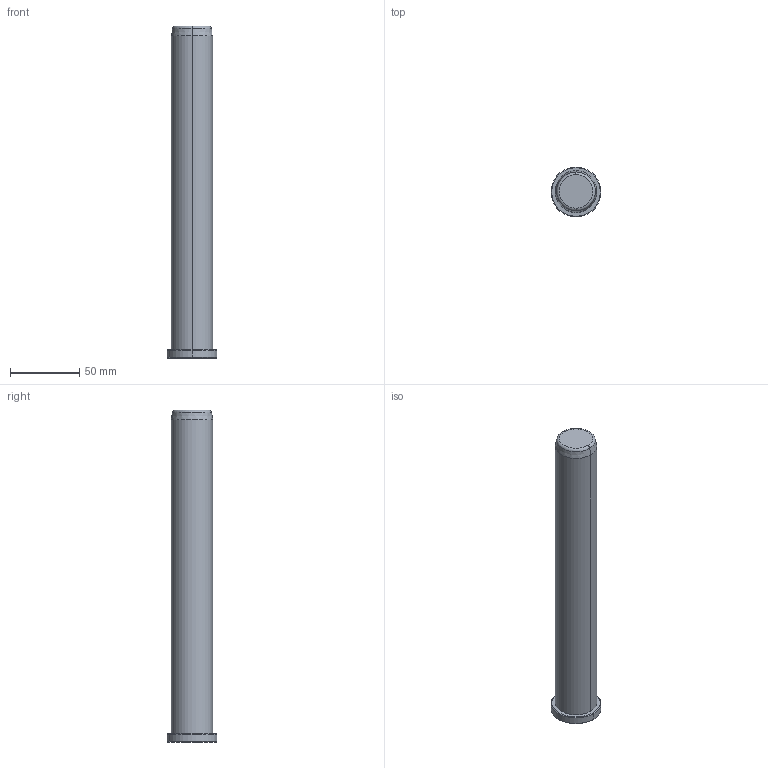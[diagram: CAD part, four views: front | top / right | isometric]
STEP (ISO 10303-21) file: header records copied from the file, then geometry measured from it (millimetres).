
FILE_DESCRIPTION((''),'2;1');
FILE_NAME('B81830240','2018-01-06T',('MANU'),(''),'PRO/ENGINEER BY PARAMETRIC TECHNOLOGY CORPORATION, 2012130','PRO/ENGINEER BY PARAMETRIC TECHNOLOGY CORPORATION, 2012130','');
FILE_SCHEMA(('CONFIG_CONTROL_DESIGN'));
Length unit declared in the file: millimetre
Products named in the file (1): B81830240
Bounding box: 36 x 36 x 240 mm (x, y, z)
Volume: 171040.4 mm3; surface area: 24522.4 mm2
Topology: 1 solids, 1 shells, 15 faces, 28 edges, 16 vertices
Faces by surface type: cone 6, cylinder 4, plane 3, torus 2
Entity records: 414 total; most frequent: DIRECTION 76, CARTESIAN_POINT 59, ORIENTED_EDGE 56, AXIS2_PLACEMENT_3D 33, EDGE_CURVE 28, CIRCLE 18, VERTEX_POINT 16, EDGE_LOOP 16
